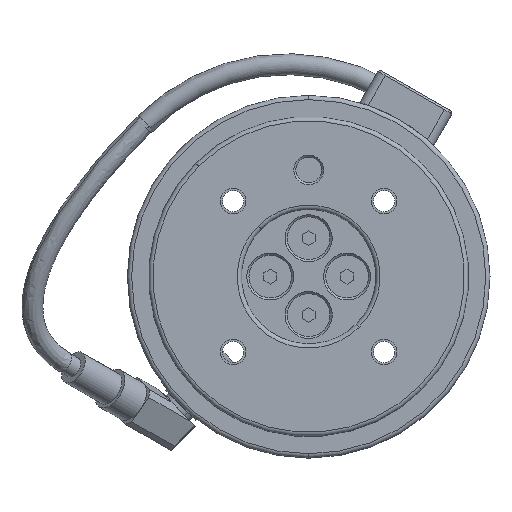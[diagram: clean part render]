
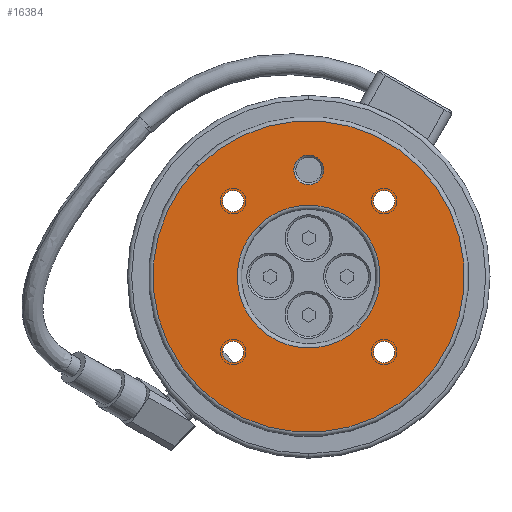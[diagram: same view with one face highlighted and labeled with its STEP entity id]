
A CAD part, top view. The second image highlights one B-rep face of the part: STEP entity #16384.
In plain terms, the highlighted planar face has unit normal (0, 0, 1) as drawn and (0, -1, 0) by its records, which use the part's own axes.
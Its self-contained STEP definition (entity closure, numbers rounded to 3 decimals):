
#15628=CARTESIAN_POINT('',(0.,0.,-25.));
#15629=DIRECTION('',(0.,-1.,0.));
#15630=DIRECTION('',(-1.,0.,0.));
#15631=AXIS2_PLACEMENT_3D('',#15628,#15629,#15630);
#15633=CARTESIAN_POINT('',(0.,0.,-25.));
#15634=DIRECTION('',(0.,-1.,0.));
#15635=DIRECTION('',(1.,0.,0.));
#15636=AXIS2_PLACEMENT_3D('',#15633,#15634,#15635);
#15638=CARTESIAN_POINT('',(25.,0.,0.));
#15639=DIRECTION('',(0.,-1.,0.));
#15640=DIRECTION('',(0.,0.,-1.));
#15641=AXIS2_PLACEMENT_3D('',#15638,#15639,#15640);
#15643=CARTESIAN_POINT('',(25.,0.,0.));
#15644=DIRECTION('',(0.,-1.,0.));
#15645=DIRECTION('',(0.,0.,1.));
#15646=AXIS2_PLACEMENT_3D('',#15643,#15644,#15645);
#15648=CARTESIAN_POINT('',(0.,0.,25.));
#15649=DIRECTION('',(0.,-1.,0.));
#15650=DIRECTION('',(1.,0.,0.));
#15651=AXIS2_PLACEMENT_3D('',#15648,#15649,#15650);
#15653=CARTESIAN_POINT('',(0.,0.,25.));
#15654=DIRECTION('',(0.,-1.,0.));
#15655=DIRECTION('',(-1.,0.,0.));
#15656=AXIS2_PLACEMENT_3D('',#15653,#15654,#15655);
#15658=CARTESIAN_POINT('',(-25.,0.,0.));
#15659=DIRECTION('',(0.,-1.,0.));
#15660=DIRECTION('',(0.,0.,1.));
#15661=AXIS2_PLACEMENT_3D('',#15658,#15659,#15660);
#15663=CARTESIAN_POINT('',(-25.,0.,0.));
#15664=DIRECTION('',(0.,-1.,0.));
#15665=DIRECTION('',(0.,0.,-1.));
#15666=AXIS2_PLACEMENT_3D('',#15663,#15664,#15665);
#15668=CARTESIAN_POINT('',(0.,0.,0.));
#15669=DIRECTION('',(0.,1.,0.));
#15670=DIRECTION('',(-1.,0.,0.));
#15671=AXIS2_PLACEMENT_3D('',#15668,#15669,#15670);
#15673=CARTESIAN_POINT('',(0.,0.,0.));
#15674=DIRECTION('',(0.,1.,0.));
#15675=DIRECTION('',(1.,0.,0.));
#15676=AXIS2_PLACEMENT_3D('',#15673,#15674,#15675);
#15678=CARTESIAN_POINT('',(0.,0.,0.));
#15679=DIRECTION('',(0.,1.,0.));
#15680=DIRECTION('',(-1.,0.,0.));
#15681=AXIS2_PLACEMENT_3D('',#15678,#15679,#15680);
#15683=CARTESIAN_POINT('',(0.,0.,0.));
#15684=DIRECTION('',(0.,1.,0.));
#15685=DIRECTION('',(1.,0.,0.));
#15686=AXIS2_PLACEMENT_3D('',#15683,#15684,#15685);
#15688=CARTESIAN_POINT('',(-17.678,0.,17.678));
#15689=DIRECTION('',(0.,1.,0.));
#15690=DIRECTION('',(1.,0.,0.));
#15691=AXIS2_PLACEMENT_3D('',#15688,#15689,#15690);
#15693=CARTESIAN_POINT('',(-17.678,0.,17.678));
#15694=DIRECTION('',(0.,1.,0.));
#15695=DIRECTION('',(-1.,0.,0.));
#15696=AXIS2_PLACEMENT_3D('',#15693,#15694,#15695);
#15971=CARTESIAN_POINT('',(-2.5,0.,-25.));
#15972=CARTESIAN_POINT('',(2.5,0.,-25.));
#15973=VERTEX_POINT('',#15971);
#15974=VERTEX_POINT('',#15972);
#15979=CARTESIAN_POINT('',(25.,0.,-2.5));
#15980=CARTESIAN_POINT('',(25.,0.,2.5));
#15981=VERTEX_POINT('',#15979);
#15982=VERTEX_POINT('',#15980);
#15987=CARTESIAN_POINT('',(2.5,0.,25.));
#15988=CARTESIAN_POINT('',(-2.5,0.,25.));
#15989=VERTEX_POINT('',#15987);
#15990=VERTEX_POINT('',#15988);
#15995=CARTESIAN_POINT('',(-25.,0.,2.5));
#15996=CARTESIAN_POINT('',(-25.,0.,-2.5));
#15997=VERTEX_POINT('',#15995);
#15998=VERTEX_POINT('',#15996);
#16071=CARTESIAN_POINT('',(-16.75,0.,0.));
#16072=CARTESIAN_POINT('',(16.75,0.,0.));
#16073=VERTEX_POINT('',#16071);
#16074=VERTEX_POINT('',#16072);
#16083=CARTESIAN_POINT('',(-36.5,0.,0.));
#16084=CARTESIAN_POINT('',(36.5,0.,0.));
#16085=VERTEX_POINT('',#16083);
#16086=VERTEX_POINT('',#16084);
#16095=CARTESIAN_POINT('',(-14.178,0.,17.678));
#16096=CARTESIAN_POINT('',(-21.178,0.,17.678));
#16097=VERTEX_POINT('',#16095);
#16098=VERTEX_POINT('',#16096);
#16341=CARTESIAN_POINT('',(0.,0.,0.));
#16342=DIRECTION('',(0.,-1.,0.));
#16343=DIRECTION('',(-1.,0.,0.));
#16344=AXIS2_PLACEMENT_3D('',#16341,#16342,#16343);
#16345=PLANE('',#16344);
#16346=ORIENTED_EDGE('',*,*,#16127,.T.);
#16347=ORIENTED_EDGE('',*,*,#16142,.T.);
#16348=EDGE_LOOP('',(#16346,#16347));
#16349=FACE_OUTER_BOUND('',#16348,.F.);
#16351=ORIENTED_EDGE('',*,*,#16350,.T.);
#16353=ORIENTED_EDGE('',*,*,#16352,.T.);
#16354=EDGE_LOOP('',(#16351,#16353));
#16355=FACE_BOUND('',#16354,.F.);
#16357=ORIENTED_EDGE('',*,*,#16356,.T.);
#16359=ORIENTED_EDGE('',*,*,#16358,.T.);
#16360=EDGE_LOOP('',(#16357,#16359));
#16361=FACE_BOUND('',#16360,.F.);
#16363=ORIENTED_EDGE('',*,*,#16362,.T.);
#16365=ORIENTED_EDGE('',*,*,#16364,.T.);
#16366=EDGE_LOOP('',(#16363,#16365));
#16367=FACE_BOUND('',#16366,.F.);
#16369=ORIENTED_EDGE('',*,*,#16368,.F.);
#16371=ORIENTED_EDGE('',*,*,#16370,.F.);
#16372=EDGE_LOOP('',(#16369,#16371));
#16373=FACE_BOUND('',#16372,.F.);
#16374=ORIENTED_EDGE('',*,*,#16321,.T.);
#16375=ORIENTED_EDGE('',*,*,#16335,.T.);
#16376=EDGE_LOOP('',(#16374,#16375));
#16377=FACE_BOUND('',#16376,.F.);
#16379=ORIENTED_EDGE('',*,*,#16378,.F.);
#16381=ORIENTED_EDGE('',*,*,#16380,.F.);
#16382=EDGE_LOOP('',(#16379,#16381));
#16383=FACE_BOUND('',#16382,.F.);
#16384=ADVANCED_FACE('',(#16349,#16355,#16361,#16367,#16373,#16377,#16383),
#16345,.T.);
#15632=CIRCLE('',#15631,2.5);
#15637=CIRCLE('',#15636,2.5);
#15642=CIRCLE('',#15641,2.5);
#15647=CIRCLE('',#15646,2.5);
#15652=CIRCLE('',#15651,2.5);
#15657=CIRCLE('',#15656,2.5);
#15662=CIRCLE('',#15661,2.5);
#15667=CIRCLE('',#15666,2.5);
#15672=CIRCLE('',#15671,16.75);
#15677=CIRCLE('',#15676,16.75);
#15682=CIRCLE('',#15681,36.5);
#15687=CIRCLE('',#15686,36.5);
#15692=CIRCLE('',#15691,3.5);
#15697=CIRCLE('',#15696,3.5);
#16127=EDGE_CURVE('',#16085,#16086,#15682,.T.);
#16142=EDGE_CURVE('',#16086,#16085,#15687,.T.);
#16321=EDGE_CURVE('',#15973,#15974,#15632,.T.);
#16335=EDGE_CURVE('',#15974,#15973,#15637,.T.);
#16350=EDGE_CURVE('',#15981,#15982,#15642,.T.);
#16352=EDGE_CURVE('',#15982,#15981,#15647,.T.);
#16356=EDGE_CURVE('',#15989,#15990,#15652,.T.);
#16358=EDGE_CURVE('',#15990,#15989,#15657,.T.);
#16362=EDGE_CURVE('',#15997,#15998,#15662,.T.);
#16364=EDGE_CURVE('',#15998,#15997,#15667,.T.);
#16368=EDGE_CURVE('',#16073,#16074,#15672,.T.);
#16370=EDGE_CURVE('',#16074,#16073,#15677,.T.);
#16378=EDGE_CURVE('',#16097,#16098,#15692,.T.);
#16380=EDGE_CURVE('',#16098,#16097,#15697,.T.);
